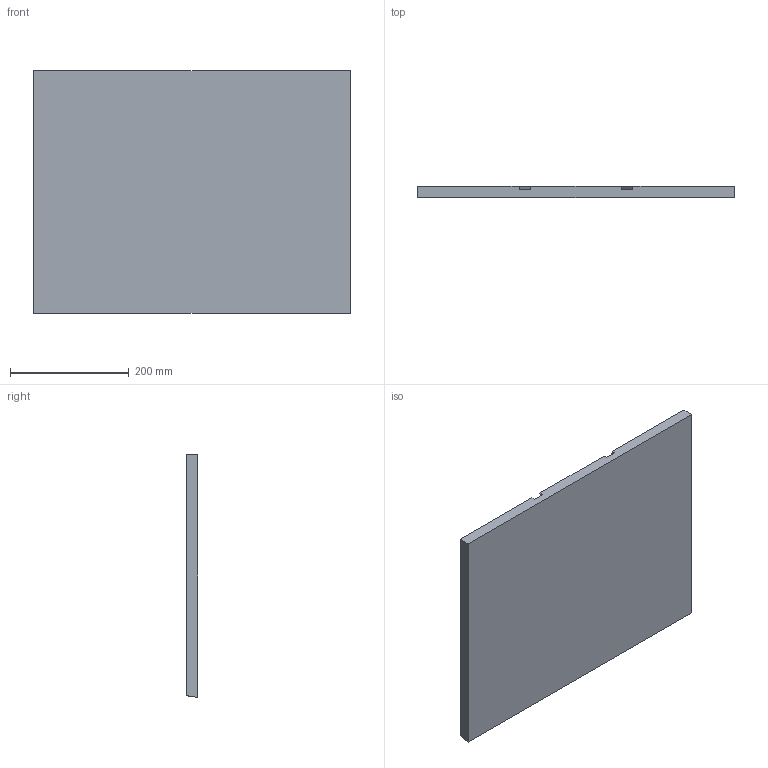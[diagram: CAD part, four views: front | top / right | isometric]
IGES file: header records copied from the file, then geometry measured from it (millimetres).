
Start section:  PTC IGES file: C:\Documents and Settings\Brad\Desktop\IGES\module_botto m_panel.igs
Global section: file name: C:\Documents and Settings\Brad\Desktop\IGES\module_bottom_panel.igs; native system: Brad by Parametric Technology Corporation; preprocessor: 2003250; author: Unknown; organization: PTC; date: 040521.142625; units: inch
Bounding box: 533.4 x 19.05 x 409.42 mm (x, y, z)
Volume: 4044772.7 mm3; surface area: 481085 mm2
Topology: 1 solids, 1 shells, 13 faces, 33 edges, 22 vertices
Faces by surface type: bspline 13
